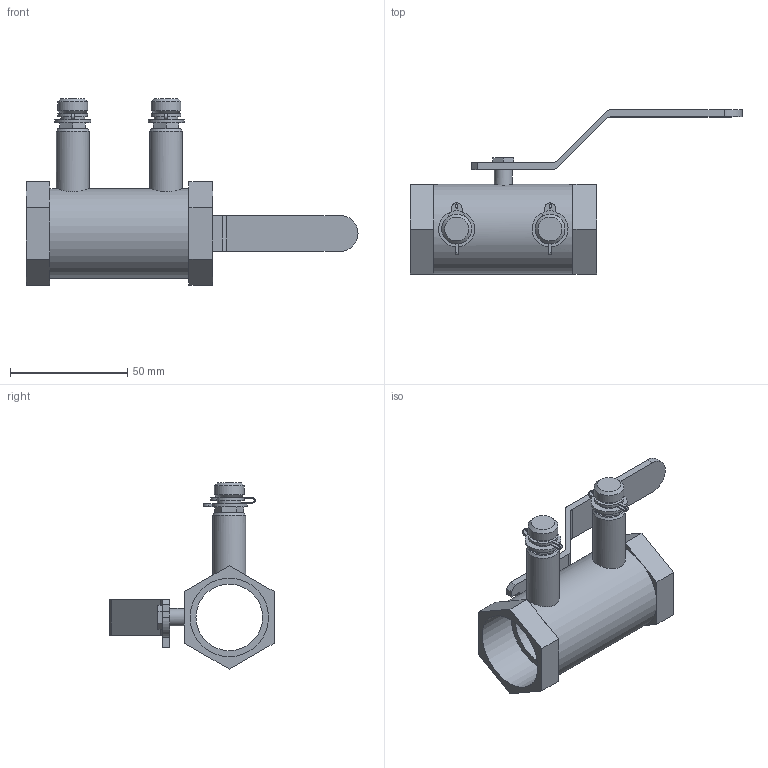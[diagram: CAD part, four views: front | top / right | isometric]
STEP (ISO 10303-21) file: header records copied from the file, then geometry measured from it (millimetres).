
FILE_DESCRIPTION(/* description */ ('VIC BALANCING VALVE SERIES 78BL (THD)','CAx-IF Rec.Pracs.---Representation and Presentation of Product Manufacturing Information (PMI)---4.0---2014-10-13'),/* implementation_level */ '2;1');
FILE_NAME(/* name */ 'C:\Users\kkamble\Desktop\New folder (12)\New folder\step\Victaulic-IPS-TA Balancing Ball Valve Series 78BL (THD)\Victaulic-IPS-TA Balancing Ball Valve Series 78BL (THD)_1 (25).stp',/* time_stamp */ '2020-10-13T18:39:53+05:00',/* author */ ('kkamble'),/* organization */ ('Victaulic'),/* preprocessor_version */ 'ST-DEVELOPER v17.2',/* originating_system */ 'Autodesk Inventor 2019',/* authorisation */ '');
FILE_SCHEMA (('AP242_MANAGED_MODEL_BASED_3D_ENGINEERING_MIM_LF { 1 0 10303 442 1 1 4 }'));
Length unit declared in the file: inch
Products named in the file (1): 78BL-01.0
Bounding box: 141.35 x 69.88 x 79.3 mm (x, y, z)
Volume: 50880.7 mm3; surface area: 27648.8 mm2
Topology: 3 solids, 3 shells, 161 faces, 425 edges, 271 vertices
Faces by surface type: plane 119, cylinder 36, cone 6
Full cylindrical faces by diameter (mm): 4.318 x1, 7.62 x1, 12.7 x2, 13.97 x2, 28.321 x1, 33.401 x2, 38.151 x1
Entity records: 5423 total; most frequent: CARTESIAN_POINT 981, DIRECTION 892, ORIENTED_EDGE 854, EDGE_CURVE 427, LINE 300, VECTOR 300, AXIS2_PLACEMENT_3D 296, VERTEX_POINT 273
